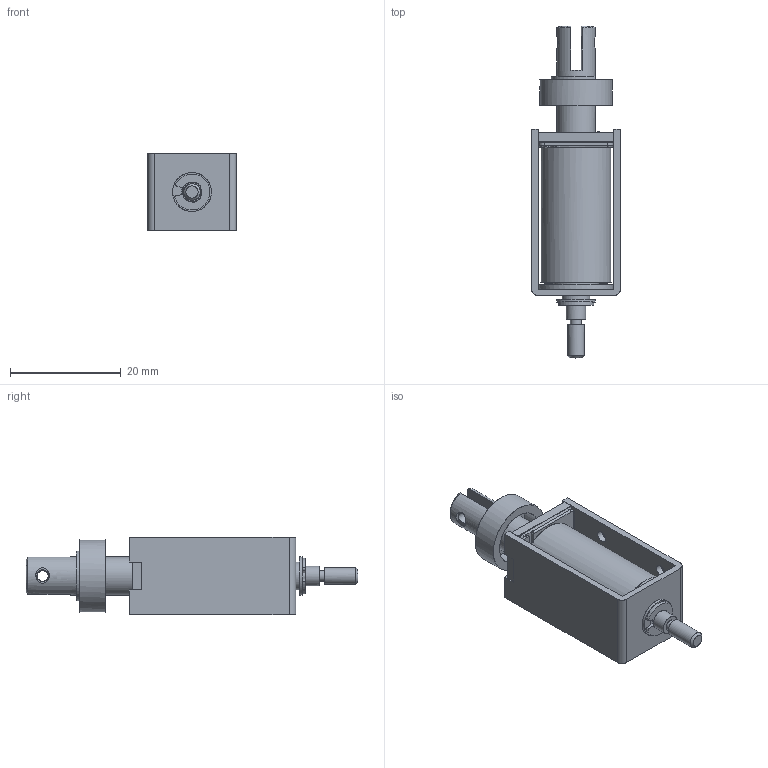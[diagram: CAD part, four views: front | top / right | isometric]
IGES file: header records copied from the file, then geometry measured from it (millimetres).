
Start section: SolidWorks IGES file using analytic representation for surfaces
Global section: file name: L:\カタログ\web用3Dデータ\CBS0730\3D_CBS0730\w_cbs0730.IGS; native system: SolidWorks 2018; preprocessor: SolidWorks 2018; author: yakata; date: 180821.182034; units: millimetre
Bounding box: 16 x 59.9 x 14 mm (x, y, z)
Surface area: 7971.9 mm2 (no closed solid volume)
Topology: 0 solids, 0 shells, 184 faces, 3284 edges, 3248 vertices
Faces by surface type: bspline 113, revolution 71
